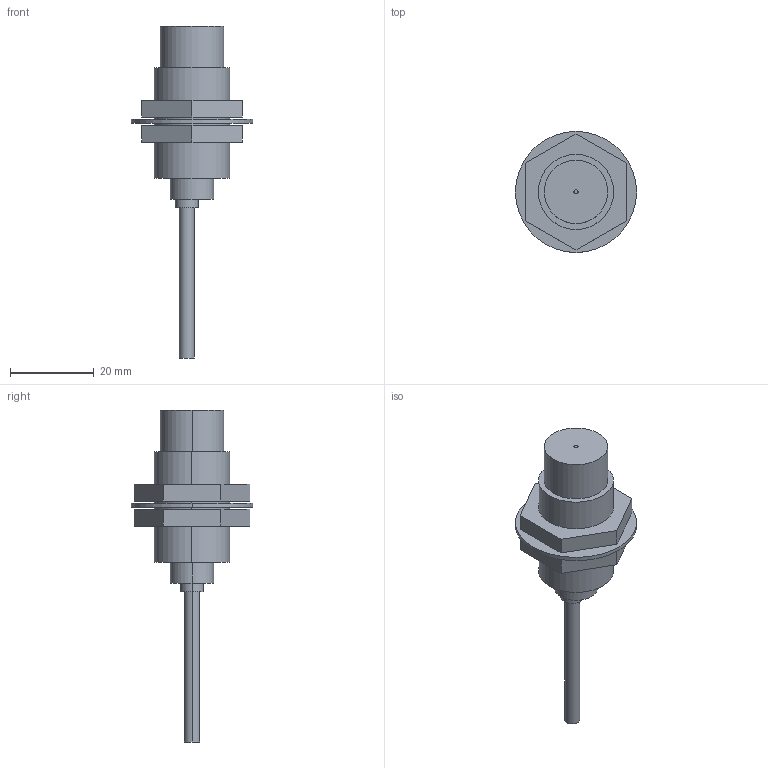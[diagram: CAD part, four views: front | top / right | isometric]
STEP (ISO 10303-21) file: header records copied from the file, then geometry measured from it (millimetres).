
FILE_DESCRIPTION (( 'STEP AP203' ), '1' );
FILE_NAME ('GX-18MLU.STEP', '2005-09-08T05:56:03', ( '' ), ( '' ), 'SwSTEP 2.0', 'SolidWorks 2004073', '' );
FILE_SCHEMA (( 'CONFIG_CONTROL_DESIGN' ));
Length unit declared in the file: millimetre
Products named in the file (1): GX-18MLU
Bounding box: 29 x 29 x 79.5 mm (x, y, z)
Volume: 11757.5 mm3; surface area: 6145.4 mm2
Topology: 4 solids, 4 shells, 48 faces, 102 edges, 68 vertices
Faces by surface type: plane 26, cylinder 22
Entity records: 1393 total; most frequent: DIRECTION 244, CARTESIAN_POINT 219, ORIENTED_EDGE 204, EDGE_CURVE 102, AXIS2_PLACEMENT_3D 93, VERTEX_POINT 68, EDGE_LOOP 60, VECTOR 58
